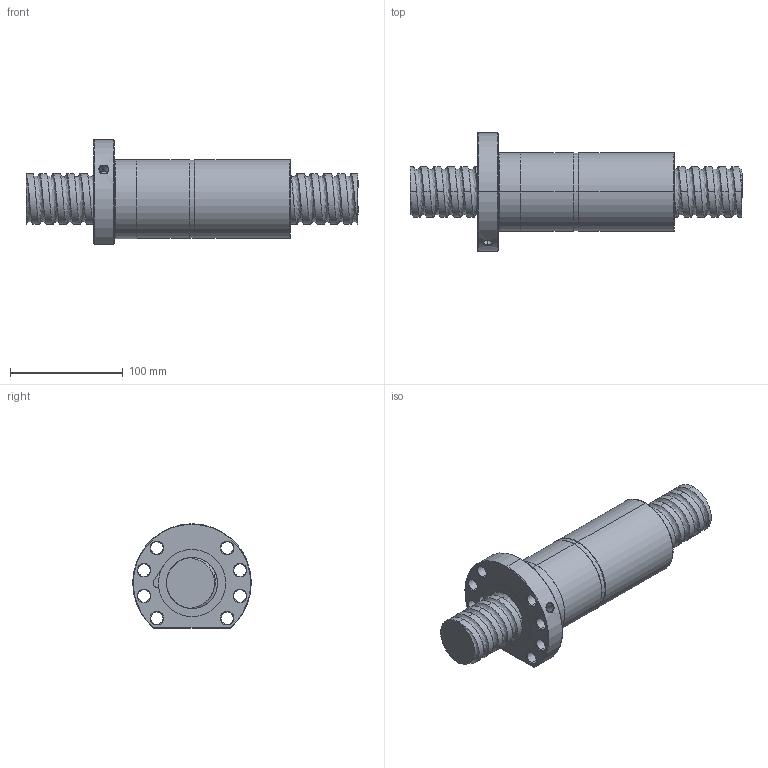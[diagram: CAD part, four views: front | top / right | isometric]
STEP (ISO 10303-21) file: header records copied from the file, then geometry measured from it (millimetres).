
FILE_DESCRIPTION (( 'STEP AP214' ), '1' );
FILE_NAME ('FDDC04512T5-F-B.STEP', '2010-07-07T02:11:46', ( 'XPAUTO' ), ( 'XPAUTO' ), 'SwSTEP 2.0', 'SolidWorks 2007', '' );
FILE_SCHEMA (( 'AUTOMOTIVE_DESIGN' ));
Products named in the file (3): FDDC04512T5-F-B; FDDC04512T5-F-B.sldasm-Part-2_預設; FDDC04512T5-F-B.sldasm-Part-1_預設
Assembly tree (2 placements, depth 2):
  FDDC04512T5-F-B
    FDDC04512T5-F-B.sldasm-Part-2_預設
    FDDC04512T5-F-B.sldasm-Part-1_預設
Bounding box: 294 x 105 x 92.5 mm (x, y, z)
Volume: 878149.3 mm3; surface area: 133165.2 mm2
Topology: 2 solids, 2 shells, 159 faces, 398 edges, 248 vertices
Faces by surface type: cylinder 94, cone 32, plane 19, torus 9, bspline 5
Entity records: 46998 total; most frequent: CARTESIAN_POINT 43234, ORIENTED_EDGE 796, DIRECTION 728, EDGE_CURVE 398, AXIS2_PLACEMENT_3D 295, VERTEX_POINT 248, EDGE_LOOP 184, ADVANCED_FACE 159
